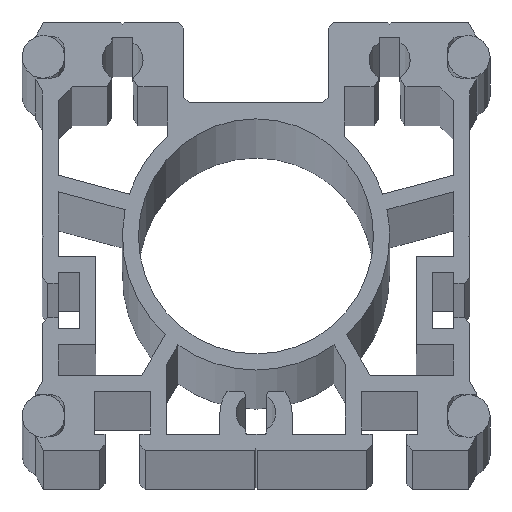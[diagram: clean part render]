
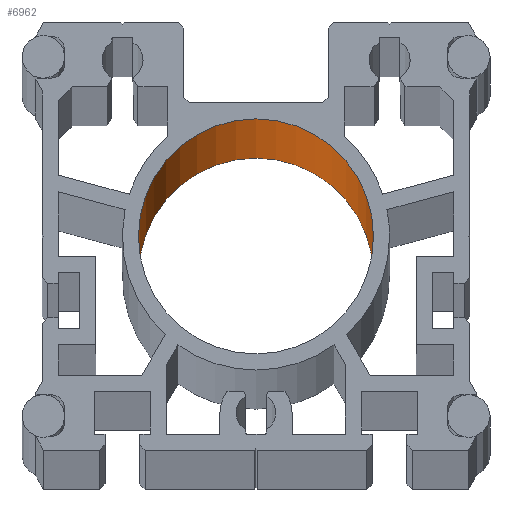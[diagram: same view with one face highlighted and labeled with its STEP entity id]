
A CAD part, top view. The second image highlights one B-rep face of the part: STEP entity #6962.
In plain terms, the highlighted cylindrical face has radius 22 mm (diameter 44 mm), a partial arc.
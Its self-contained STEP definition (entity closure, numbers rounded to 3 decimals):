
#3879 = DIRECTION ( 'NONE',  ( 0., 0., 1. ) ) ;
#3880 = VECTOR ( 'NONE', #3879, 1000. ) ;
#3910 = CARTESIAN_POINT ( 'NONE',  ( 22., 40., -2099. ) ) ;
#3911 = LINE ( 'NONE', #3910, #3880 ) ;
#3917 = DIRECTION ( 'NONE',  ( 0., 0., 1. ) ) ;
#3918 = VECTOR ( 'NONE', #3917, 1000. ) ;
#3919 = CARTESIAN_POINT ( 'NONE',  ( -22., 40., -2099. ) ) ;
#3920 = LINE ( 'NONE', #3919, #3918 ) ;
#3921 = CARTESIAN_POINT ( 'NONE',  ( -22., 40., 2099. ) ) ;
#3929 = CARTESIAN_POINT ( 'NONE',  ( 22., 40., 2099. ) ) ;
#4180 = CARTESIAN_POINT ( 'NONE',  ( -22., 40., -2099. ) ) ;
#4538 = CARTESIAN_POINT ( 'NONE',  ( 22., 40., -2099. ) ) ;
#4706 = DIRECTION ( 'NONE',  ( 1., 0., 0. ) ) ;
#4707 = DIRECTION ( 'NONE',  ( 0., 0., 1. ) ) ;
#4708 = CARTESIAN_POINT ( 'NONE',  ( 0., 40., -2099. ) ) ;
#4709 = AXIS2_PLACEMENT_3D ( 'NONE', #4708, #4707, #4706 ) ;
#4710 = CIRCLE ( 'NONE', #4709, 22. ) ;
#5706 = VERTEX_POINT ( 'NONE', #3929 ) ;
#5710 = VERTEX_POINT ( 'NONE', #3921 ) ;
#5712 = EDGE_CURVE ( 'NONE', #5859, #5710, #3920, .T. ) ;
#5716 = EDGE_CURVE ( 'NONE', #5886, #5706, #3911, .T. ) ;
#5859 = VERTEX_POINT ( 'NONE', #4180 ) ;
#5886 = VERTEX_POINT ( 'NONE', #4538 ) ;
#6191 = EDGE_CURVE ( 'NONE', #5886, #5859, #4710, .T. ) ;
#6855 = EDGE_CURVE ( 'NONE', #5706, #5710, #7479, .T. ) ;
#6962 = ADVANCED_FACE ( 'NONE', ( #7836 ), #7835, .F. ) ;
#6963 = EDGE_LOOP ( 'NONE', ( #6964, #6965, #6966, #6967 ) ) ;
#6964 = ORIENTED_EDGE ( 'NONE', *, *, #5712, .F. ) ;
#6965 = ORIENTED_EDGE ( 'NONE', *, *, #6191, .F. ) ;
#6966 = ORIENTED_EDGE ( 'NONE', *, *, #5716, .T. ) ;
#6967 = ORIENTED_EDGE ( 'NONE', *, *, #6855, .T. ) ;
#7475 = DIRECTION ( 'NONE',  ( 1., 0., 0. ) ) ;
#7476 = DIRECTION ( 'NONE',  ( 0., 0., 1. ) ) ;
#7477 = CARTESIAN_POINT ( 'NONE',  ( 0., 40., 2099. ) ) ;
#7478 = AXIS2_PLACEMENT_3D ( 'NONE', #7477, #7476, #7475 ) ;
#7479 = CIRCLE ( 'NONE', #7478, 22. ) ;
#7830 = DIRECTION ( 'NONE',  ( 1., 0., 0. ) ) ;
#7831 = DIRECTION ( 'NONE',  ( 0., 0., 1. ) ) ;
#7832 = CARTESIAN_POINT ( 'NONE',  ( 0., 40., -2099. ) ) ;
#7833 = AXIS2_PLACEMENT_3D ( 'NONE', #7832, #7831, #7830 ) ;
#7835 = CYLINDRICAL_SURFACE ( 'NONE', #7833, 22. ) ;
#7836 = FACE_OUTER_BOUND ( 'NONE', #6963, .T. ) ;
